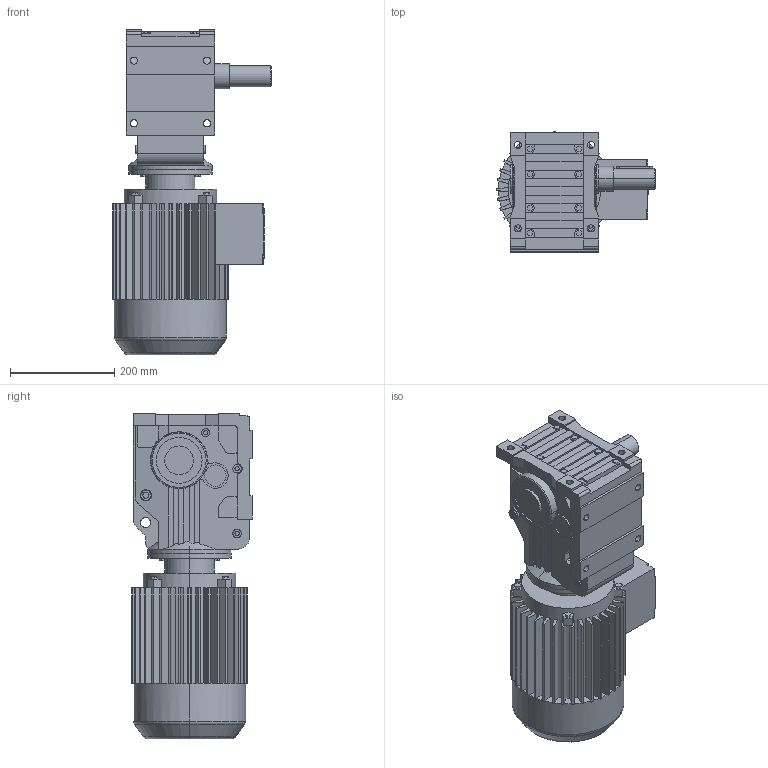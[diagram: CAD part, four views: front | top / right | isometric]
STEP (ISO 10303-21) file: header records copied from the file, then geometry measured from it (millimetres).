
FILE_DESCRIPTION(('Open CASCADE Model'),'2;1');
FILE_NAME('Open CASCADE Shape Model','2021-06-10T14:13:38',('Author'),( 'Open CASCADE'),'Open CASCADE STEP processor 6.3','Open CASCADE 6.3' ,'Unknown');
FILE_SCHEMA(('AUTOMOTIVE_DESIGN_CC2 { 1 2 10303 214 -1 1 5 4 }'));
Length unit declared in the file: millimetre
Products named in the file (4): 1_K67DV112M-A; K37‵157_67.step; 萇儂_160-DV112M-354-434-221-179.step; す瑩妗陑粣K_67.step
Assembly tree (3 placements, depth 2):
  1_K67DV112M-A
    K37‵157_67.step
    萇儂_160-DV112M-354-434-221-179.step
    す瑩妗陑粣K_67.step
Bounding box: 303.5 x 230.5 x 623 mm (x, y, z)
Volume: 18714142.6 mm3; surface area: 966870.9 mm2
Topology: 3 solids, 3 shells, 839 faces, 2210 edges, 1434 vertices
Faces by surface type: plane 584, cylinder 231, cone 16, torus 8
Entity records: 57784 total; most frequent: CARTESIAN_POINT 15775, DIRECTION 7244, ORIENTED_EDGE 4416, PCURVE 4416, DEFINITIONAL_REPRESENTATION 4416, LINE 3943, VECTOR 3943, EDGE_CURVE 2208
